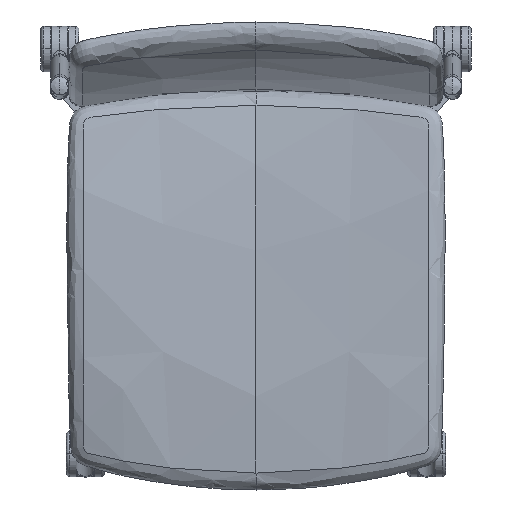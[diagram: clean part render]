
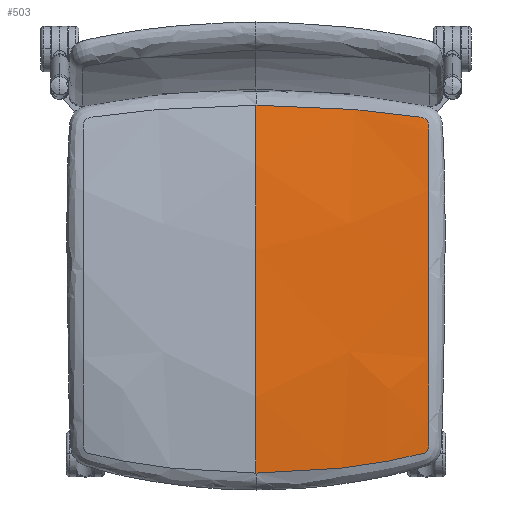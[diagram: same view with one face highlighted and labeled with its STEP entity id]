
A CAD part, top view. The second image highlights one B-rep face of the part: STEP entity #503.
In plain terms, the highlighted free-form (B-spline) face has degree [3, 3] with [6, 5] control points.
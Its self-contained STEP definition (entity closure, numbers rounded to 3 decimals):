
#51=B_SPLINE_SURFACE_WITH_KNOTS('',3,3,((#8172,#8173,#8174,#8175,#8176),
(#8177,#8178,#8179,#8180,#8181),(#8182,#8183,#8184,#8185,#8186),(#8187,
#8188,#8189,#8190,#8191),(#8192,#8193,#8194,#8195,#8196),(#8197,#8198,#8199,
#8200,#8201)),.UNSPECIFIED.,.F.,.F.,.F.,(4,1,1,4),(4,1,4),(0.,150.405,
300.811,451.216),(0.,113.023,226.045),
 .UNSPECIFIED.);
#199=B_SPLINE_CURVE_WITH_KNOTS('',3,(#8800,#8801,#8802,#8803,#8804,#8805),
 .UNSPECIFIED.,.F.,.F.,(4,1,1,4),(14.636,150.405,300.811,
436.736),.UNSPECIFIED.);
#202=B_SPLINE_CURVE_WITH_KNOTS('',3,(#8876,#8877,#8878,#8879,#8880,#8881,
#8882,#8883,#8884,#8885,#8886,#8887,#8888,#8889,#8890,#8891,#8892,#8893,
#8894,#8895,#8896,#8897,#8898,#8899,#8900,#8901,#8902,#8903,#8904,#8905,
#8906,#8907,#8908,#8909,#8910,#8911,#8912,#8913,#8914,#8915,#8916,#8917,
#8918,#8919,#8920,#8921,#8922,#8923,#8924,#8925,#8926,#8927,#8928,#8929,
#8930,#8931,#8932,#8933,#8934,#8935,#8936,#8937,#8938,#8939,#8940,#8941),
 .UNSPECIFIED.,.F.,.F.,(4,2,2,2,1,1,1,2,2,2,2,2,1,1,1,2,2,2,2,2,2,2,2,2,
1,1,1,2,2,2,2,2,1,1,1,2,2,2,4),(-834.547,-732.977,-707.585,
-682.192,-634.077,-631.407,-628.738,
-626.069,-623.399,-620.73,-618.061,
-615.391,-612.722,-610.053,-607.384,
-561.831,-513.608,-489.497,-465.386,
-417.164,-368.942,-344.831,-320.72,
-272.498,-226.987,-224.275,-221.564,
-218.853,-216.141,-213.43,-210.718,
-208.007,-205.295,-202.584,-199.872,
-151.938,-126.615,-101.292,0.),.UNSPECIFIED.);
#503=ADVANCED_FACE('',(#693),#51,.T.);
#693=FACE_OUTER_BOUND('',#883,.T.);
#883=EDGE_LOOP('',(#1570,#1571));
#1570=ORIENTED_EDGE('',*,*,#2007,.F.);
#1571=ORIENTED_EDGE('',*,*,#2010,.F.);
#2007=EDGE_CURVE('',#2494,#2493,#199,.T.);
#2010=EDGE_CURVE('',#2493,#2494,#202,.T.);
#2493=VERTEX_POINT('',#8792);
#2494=VERTEX_POINT('',#8793);
#8172=CARTESIAN_POINT('',(222.5,-257.5,438.92));
#8173=CARTESIAN_POINT('',(186.336,-267.419,447.436));
#8174=CARTESIAN_POINT('',(112.582,-282.432,452.217));
#8175=CARTESIAN_POINT('',(37.527,-287.459,452.479));
#8176=CARTESIAN_POINT('',(0.,-287.459,452.479));
#8177=CARTESIAN_POINT('',(222.5,-210.234,447.665));
#8178=CARTESIAN_POINT('',(186.401,-218.252,457.09));
#8179=CARTESIAN_POINT('',(112.677,-230.383,460.207));
#8180=CARTESIAN_POINT('',(37.559,-234.444,459.909));
#8181=CARTESIAN_POINT('',(0.,-234.444,459.909));
#8182=CARTESIAN_POINT('',(222.5,-115.677,451.522));
#8183=CARTESIAN_POINT('',(186.531,-119.935,458.649));
#8184=CARTESIAN_POINT('',(112.867,-126.362,454.263));
#8185=CARTESIAN_POINT('',(37.622,-128.511,452.788));
#8186=CARTESIAN_POINT('',(0.,-128.511,452.788));
#8187=CARTESIAN_POINT('',(222.5,26.117,446.406));
#8188=CARTESIAN_POINT('',(186.726,27.366,449.741));
#8189=CARTESIAN_POINT('',(113.151,29.293,439.584));
#8190=CARTESIAN_POINT('',(37.717,29.944,436.172));
#8191=CARTESIAN_POINT('',(0.,29.944,436.172));
#8192=CARTESIAN_POINT('',(222.5,120.418,435.736));
#8193=CARTESIAN_POINT('',(186.856,125.229,436.319));
#8194=CARTESIAN_POINT('',(113.341,132.56,425.981));
#8195=CARTESIAN_POINT('',(37.78,135.024,421.165));
#8196=CARTESIAN_POINT('',(0.,135.024,421.165));
#8197=CARTESIAN_POINT('',(222.5,167.5,423.588));
#8198=CARTESIAN_POINT('',(186.92,174.063,420.741));
#8199=CARTESIAN_POINT('',(113.436,184.054,408.229));
#8200=CARTESIAN_POINT('',(37.812,187.409,402.683));
#8201=CARTESIAN_POINT('',(0.,187.409,402.683));
#8792=CARTESIAN_POINT('',(0.,172.275,407.725));
#8793=CARTESIAN_POINT('',(0.,-271.984,454.345));
#8800=CARTESIAN_POINT('',(0.,-271.984,454.345));
#8801=CARTESIAN_POINT('',(0.,-224.136,459.206));
#8802=CARTESIAN_POINT('',(0.,-123.372,452.249));
#8803=CARTESIAN_POINT('',(0.,24.859,436.705));
#8804=CARTESIAN_POINT('',(0.,124.906,422.601));
#8805=CARTESIAN_POINT('',(0.,172.275,407.725));
#8876=CARTESIAN_POINT('',(0.,172.275,407.725));
#8877=CARTESIAN_POINT('',(33.428,172.274,407.725));
#8878=CARTESIAN_POINT('',(66.833,171.067,409.808));
#8879=CARTESIAN_POINT('',(108.273,168.045,414.155));
#8880=CARTESIAN_POINT('',(116.546,167.365,415.119));
#8881=CARTESIAN_POINT('',(133.064,165.851,417.169));
#8882=CARTESIAN_POINT('',(141.303,165.018,418.245));
#8883=CARTESIAN_POINT('',(165.179,162.377,421.343));
#8884=CARTESIAN_POINT('',(181.515,160.261,423.451));
#8885=CARTESIAN_POINT('',(199.038,157.674,425.137));
#8886=CARTESIAN_POINT('',(200.949,157.297,425.337));
#8887=CARTESIAN_POINT('',(202.303,156.803,425.534));
#8888=CARTESIAN_POINT('',(203.554,156.216,425.745));
#8889=CARTESIAN_POINT('',(204.158,155.865,425.863));
#8890=CARTESIAN_POINT('',(205.273,155.048,426.12));
#8891=CARTESIAN_POINT('',(205.785,154.581,426.26));
#8892=CARTESIAN_POINT('',(206.691,153.546,426.555));
#8893=CARTESIAN_POINT('',(207.084,152.978,426.71));
#8894=CARTESIAN_POINT('',(207.737,151.775,427.029));
#8895=CARTESIAN_POINT('',(207.999,151.137,427.193));
#8896=CARTESIAN_POINT('',(208.399,149.838,427.519));
#8897=CARTESIAN_POINT('',(208.689,148.451,427.857));
#8898=CARTESIAN_POINT('',(208.776,146.557,428.302));
#8899=CARTESIAN_POINT('',(208.742,129.822,432.126));
#8900=CARTESIAN_POINT('',(208.749,114.125,435.006));
#8901=CARTESIAN_POINT('',(208.73,83.211,439.722));
#8902=CARTESIAN_POINT('',(208.724,67.267,441.629));
#8903=CARTESIAN_POINT('',(208.712,43.289,444.027));
#8904=CARTESIAN_POINT('',(208.709,35.291,444.748));
#8905=CARTESIAN_POINT('',(208.701,19.285,446.088));
#8906=CARTESIAN_POINT('',(208.697,11.276,446.707));
#8907=CARTESIAN_POINT('',(208.686,-12.757,448.414));
#8908=CARTESIAN_POINT('',(208.678,-28.794,449.35));
#8909=CARTESIAN_POINT('',(208.663,-60.887,450.815));
#8910=CARTESIAN_POINT('',(208.656,-76.942,451.344));
#8911=CARTESIAN_POINT('',(208.644,-101.031,451.833));
#8912=CARTESIAN_POINT('',(208.641,-109.063,451.945));
#8913=CARTESIAN_POINT('',(208.633,-125.124,452.068));
#8914=CARTESIAN_POINT('',(208.629,-133.157,452.078));
#8915=CARTESIAN_POINT('',(208.618,-157.252,451.877));
#8916=CARTESIAN_POINT('',(208.609,-173.304,451.433));
#8917=CARTESIAN_POINT('',(208.599,-204.505,449.545));
#8918=CARTESIAN_POINT('',(208.578,-220.395,448.101));
#8919=CARTESIAN_POINT('',(208.596,-237.426,445.773));
#8920=CARTESIAN_POINT('',(208.506,-239.362,445.519));
#8921=CARTESIAN_POINT('',(208.218,-240.795,445.378));
#8922=CARTESIAN_POINT('',(207.826,-242.142,445.27));
#8923=CARTESIAN_POINT('',(207.57,-242.807,445.23));
#8924=CARTESIAN_POINT('',(206.935,-244.072,445.185));
#8925=CARTESIAN_POINT('',(206.555,-244.674,445.18));
#8926=CARTESIAN_POINT('',(205.68,-245.787,445.206));
#8927=CARTESIAN_POINT('',(205.185,-246.298,445.238));
#8928=CARTESIAN_POINT('',(204.107,-247.21,445.334));
#8929=CARTESIAN_POINT('',(203.522,-247.613,445.4));
#8930=CARTESIAN_POINT('',(202.306,-248.306,445.554));
#8931=CARTESIAN_POINT('',(200.982,-248.912,445.74));
#8932=CARTESIAN_POINT('',(199.118,-249.435,446.046));
#8933=CARTESIAN_POINT('',(181.911,-253.338,448.888));
#8934=CARTESIAN_POINT('',(165.65,-256.584,450.503));
#8935=CARTESIAN_POINT('',(141.78,-260.666,452.076));
#8936=CARTESIAN_POINT('',(133.518,-261.96,452.471));
#8937=CARTESIAN_POINT('',(116.939,-264.316,453.095));
#8938=CARTESIAN_POINT('',(108.632,-265.377,453.33));
#8939=CARTESIAN_POINT('',(67.022,-270.093,454.307));
#8940=CARTESIAN_POINT('',(33.509,-271.984,454.344));
#8941=CARTESIAN_POINT('',(0.,-271.984,454.345));
